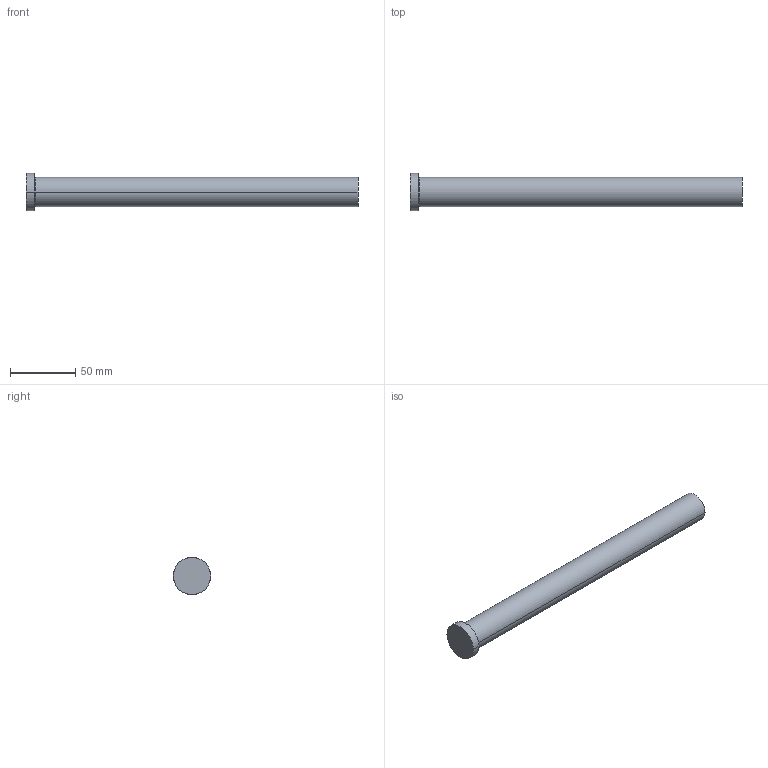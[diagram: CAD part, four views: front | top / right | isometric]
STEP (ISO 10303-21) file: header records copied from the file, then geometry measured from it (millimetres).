
FILE_DESCRIPTION (( 'STEP AP214' ), '1' );
FILE_NAME ('P45-10.STEP', '2020-03-12T12:22:15', ( '' ), ( '' ), 'SwSTEP 2.0', 'SolidWorks 2018', '' );
FILE_SCHEMA (( 'AUTOMOTIVE_DESIGN' ));
Length unit declared in the file: inch
Products named in the file (1): P45-10
Bounding box: 254 x 28.57 x 28.57 mm (x, y, z)
Volume: 100045.7 mm3; surface area: 19100.9 mm2
Topology: 1 solids, 1 shells, 13 faces, 24 edges, 14 vertices
Faces by surface type: cone 4, cylinder 4, plane 3, torus 2
Entity records: 366 total; most frequent: DIRECTION 68, CARTESIAN_POINT 52, ORIENTED_EDGE 48, AXIS2_PLACEMENT_3D 30, EDGE_CURVE 24, CIRCLE 16, VERTEX_POINT 14, EDGE_LOOP 14
